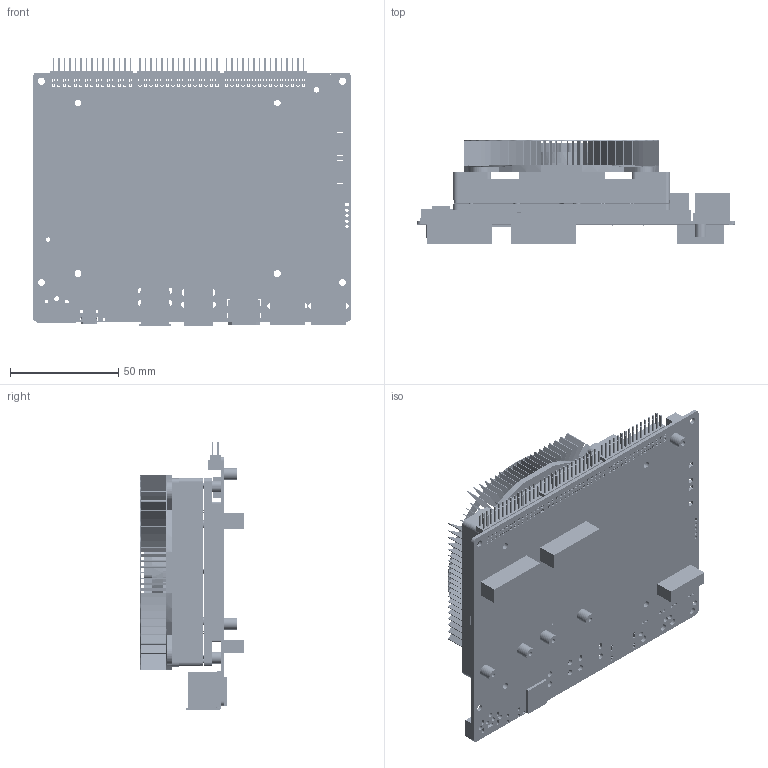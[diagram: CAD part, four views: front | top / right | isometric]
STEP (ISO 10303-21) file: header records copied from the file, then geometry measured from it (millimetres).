
FILE_DESCRIPTION((''),'2;1');
FILE_NAME('Y-C13-DEV20250620_0001_ASM','2025-11-24T17:14:01',('Lenovo'),(''),'CREO PARAMETRIC BY PTC INC, 2022073','CREO PARAMETRIC BY PTC INC, 2022073','');
FILE_SCHEMA(('AUTOMOTIVE_DESIGN { 1 0 10303 214 1 1 1 1 }'));
Products named in the file (27): ___________Y-C8_Y-0001; __________-0_Y-C8_0001; C9_____Y-C8_Y-C9_0001; Y-C8_Y-C9_0001_ASM; 155-0533-000_STP; 155-0532-000_STP; 367-0034-000_STP; 350-82888-0001-000_ASM_STP_ASM; 367-0035-000_STP; 580-12888-0000-000_ASM_STP_ASM; 080-1502-000_4_STP; 142-82888-1000-A03_ASM_STP_ASM; 142-82888-1000-A04_STP; 142-82888-1000-A04_ASM_STP_ASM; 244-12888-0000-A00_ASM_STP_ASM; 245-12888-0000-000_ASM_01242019_ASM; U321-0421-X27017_Y-C11-V1-0_ASM; OTG_____STEP_STEP; HDMI-211_______STEP_STEP; TF_____STEP_STEP; Y-C13-V1_____STEP; ______USB___Y-C13-V1_0_STEP; SIM_____STEP; ___________STEP; _____STEP; Y-C13-V1_020250620_STEP_ASM; Y-C13-DEV20250620_0001_ASM
Assembly tree (35 placements, depth 5):
  Y-C13-DEV20250620_0001_ASM
    Y-C8_Y-C9_0001_ASM
      ___________Y-C8_Y-0001
      __________-0_Y-C8_0001  x2
      C9_____Y-C8_Y-C9_0001
    245-12888-0000-000_ASM_01242019_ASM
      155-0533-000_STP  x4
      155-0532-000_STP  x4
      580-12888-0000-000_ASM_STP_ASM
        350-82888-0001-000_ASM_STP_ASM
          367-0034-000_STP
        367-0035-000_STP
      244-12888-0000-A00_ASM_STP_ASM
        142-82888-1000-A03_ASM_STP_ASM
          080-1502-000_4_STP
        142-82888-1000-A04_ASM_STP_ASM
          080-1502-000_4_STP
          142-82888-1000-A04_STP
    Y-C13-V1_020250620_STEP_ASM
      U321-0421-X27017_Y-C11-V1-0_ASM
      OTG_____STEP_STEP
      HDMI-211_______STEP_STEP
      TF_____STEP_STEP
      Y-C13-V1_____STEP
      ______USB___Y-C13-V1_0_STEP
      SIM_____STEP
      ___________STEP
      _____STEP  x2
Bounding box: 147 x 47.78 x 123.3 mm (x, y, z)
Volume: 180719.9 mm3; surface area: 190260 mm2
Topology: 27 solids, 27 shells, 4913 faces, 13722 edges, 8823 vertices
Faces by surface type: plane 3194, cylinder 1333, sphere 141, cone 116, bspline 88, extrusion 29, torus 12
Entity records: 146174 total; most frequent: CARTESIAN_POINT 33734, ORIENTED_EDGE 23322, DIRECTION 22860, EDGE_CURVE 11661, VECTOR 8482, LINE 8453, VERTEX_POINT 7551, AXIS2_PLACEMENT_3D 7189
